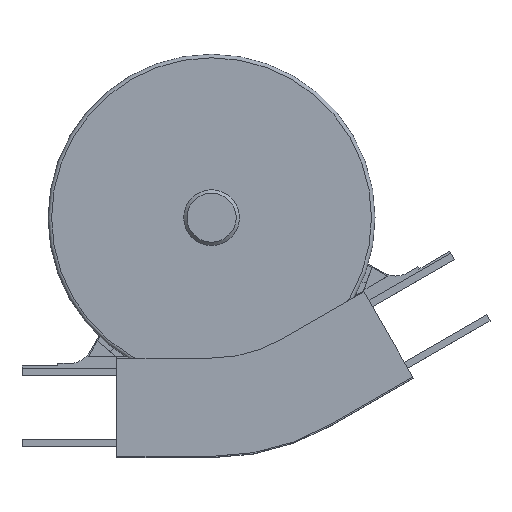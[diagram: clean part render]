
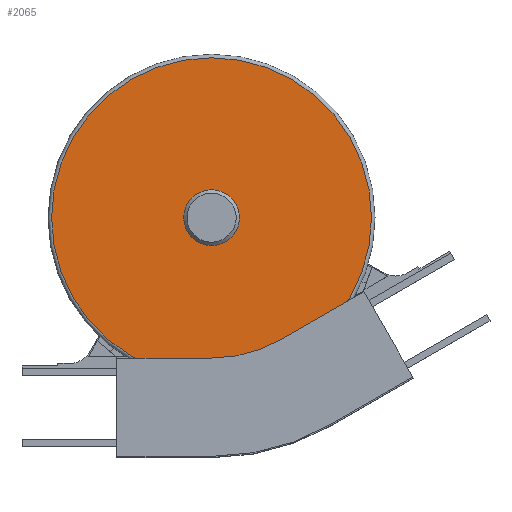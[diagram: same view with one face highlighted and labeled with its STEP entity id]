
A CAD part, top view. The second image highlights one B-rep face of the part: STEP entity #2065.
In plain terms, the highlighted planar face has unit normal (0, 0, 1).
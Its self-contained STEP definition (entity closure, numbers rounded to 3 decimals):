
#38=FACE_BOUND('',#289,.T.);
#79=CIRCLE('',#2223,21.);
#80=CIRCLE('',#2225,135.);
#164=FACE_OUTER_BOUND('',#288,.T.);
#288=EDGE_LOOP('',(#1523));
#289=EDGE_LOOP('',(#1524));
#935=VERTEX_POINT('',#3085);
#936=VERTEX_POINT('',#3089);
#1153=EDGE_CURVE('',#935,#935,#79,.T.);
#1155=EDGE_CURVE('',#936,#936,#80,.T.);
#1523=ORIENTED_EDGE('',*,*,#1155,.F.);
#1524=ORIENTED_EDGE('',*,*,#1153,.T.);
#1956=PLANE('',#2224);
#2065=ADVANCED_FACE('',(#164,#38),#1956,.T.);
#2223=AXIS2_PLACEMENT_3D('',#3086,#2504,#2505);
#2224=AXIS2_PLACEMENT_3D('',#3088,#2507,#2508);
#2225=AXIS2_PLACEMENT_3D('',#3090,#2509,#2510);
#2504=DIRECTION('center_axis',(0.,0.,-1.));
#2505=DIRECTION('ref_axis',(1.,0.,0.));
#2507=DIRECTION('center_axis',(0.,0.,1.));
#2508=DIRECTION('ref_axis',(1.,0.,0.));
#2509=DIRECTION('center_axis',(0.,0.,-1.));
#2510=DIRECTION('ref_axis',(1.,0.,0.));
#3085=CARTESIAN_POINT('',(85.435,139.716,39.));
#3086=CARTESIAN_POINT('Origin',(80.,160.,39.));
#3088=CARTESIAN_POINT('Origin',(45.059,290.4,39.));
#3089=CARTESIAN_POINT('',(215.,160.,39.));
#3090=CARTESIAN_POINT('Origin',(80.,160.,39.));
